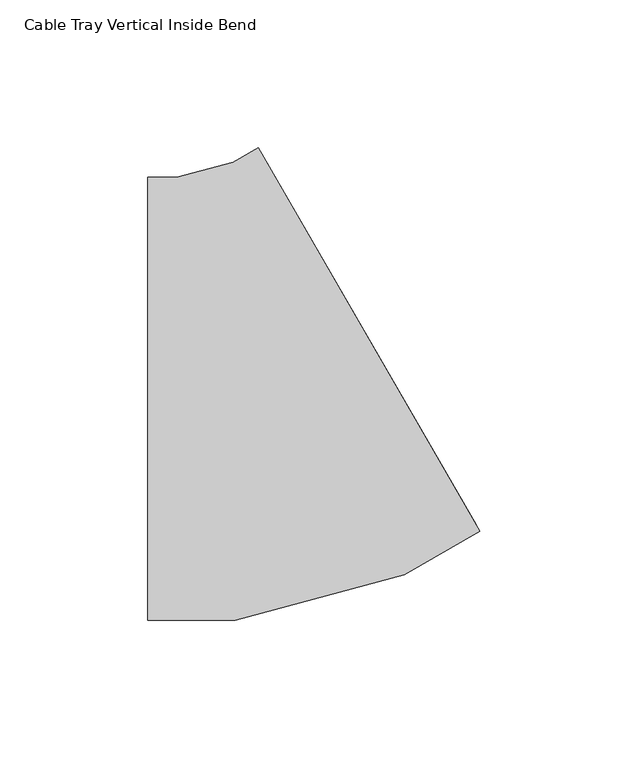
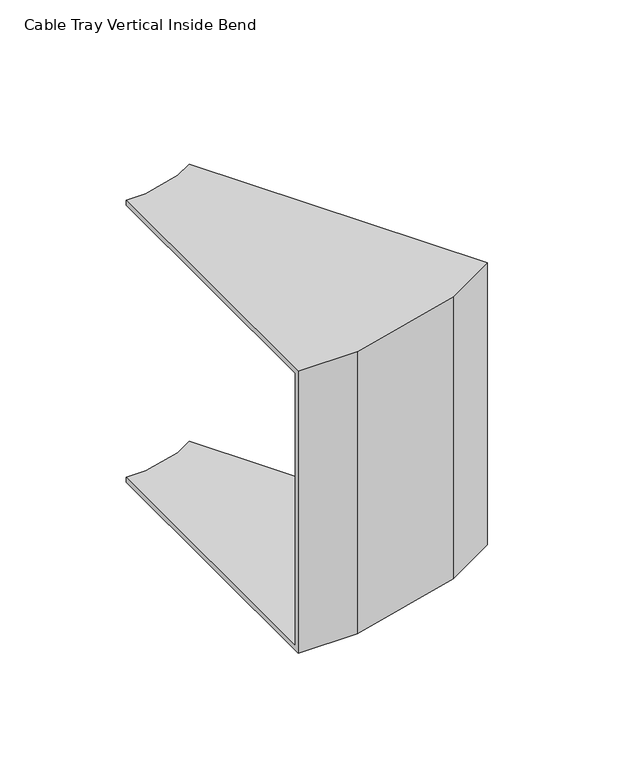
"""IFC4 building model written with IfcOpenShell, lengths in millimetres: cable carrier fitting geometry, Cable Tray Vertical Inside Bend : ELEC_ELV_TKG_N2402."""

from ifc_helpers import new_model, si_unit, origin, place, context, project, spatial, faceted_brep, source, transform, mapped, element, save


def cable_tray_vertical_inside_bend_52d12825(model_context):
    return source(origin(), model_context, "Body", "Brep", [
        faceted_brep([(-40.1920506, 75.0, 75.0), (-40.1920506, 75.0, 72.46), (-40.1920506, -72.46, 72.46), (-40.1920506, -72.46, -72.46), (-40.1920506, 75.0, -72.46), (-40.1920506, 75.0, -75.0), (-40.1920506, -75.0, -75.0), (-40.1920506, -75.0, 75.0), (-2.6923158, 85.0479416, 75.0), (72.3071537, -44.8561752, 75.0), (72.3071537, -44.8561752, -75.0), (-2.6923158, 85.0479416, -75.0), (-2.6923158, 85.0479416, -72.46), (71.0371627, -42.6564655, -72.46), (71.0371627, -42.6564655, 72.46), (-2.6923158, 85.0479416, 72.46), (-30.3181912, 75.0, 75.0), (-30.3181912, 75.0, 72.46), (-11.2433491, 80.1110468, 72.46), (45.6736579, -57.2999538, 72.46), (-10.904867, -72.46, 72.46), (-10.904867, -72.46, -72.46), (45.6736579, -57.2999538, -72.46), (-11.2433491, 80.1110468, -72.46), (-30.3181912, 75.0, -72.46), (-30.3181912, 75.0, -75.0), (-11.2433491, 80.1110468, -75.0), (46.6540539, -59.6668596, -75.0), (-10.5704723, -75.0, -75.0), (-10.5704723, -75.0, 75.0), (46.6540539, -59.6668596, 75.0), (-11.2433491, 80.1110468, 75.0)], [[[0, 1, 2, 3, 4, 5, 6, 7]], [[8, 9, 10, 11, 12, 13, 14, 15]], [[1, 0, 16, 17]], [[2, 1, 17, 18, 15, 14, 19, 20]], [[3, 2, 20, 21]], [[4, 3, 21, 22, 13, 12, 23, 24]], [[5, 4, 24, 25]], [[6, 5, 25, 26, 11, 10, 27, 28]], [[7, 6, 28, 29]], [[0, 7, 29, 30, 9, 8, 31, 16]], [[17, 16, 31, 18]], [[21, 20, 19, 22]], [[25, 24, 23, 26]], [[29, 28, 27, 30]], [[18, 31, 8, 15]], [[22, 19, 14, 13]], [[26, 23, 12, 11]], [[30, 27, 10, 9]]]),
    ])


if __name__ == "__main__":
    model = new_model("IFC4")
    model_context = context("Model", 3, world=origin())
    ifc_project = project(units=[si_unit("LENGTHUNIT", "METRE", prefix="MILLI")], contexts=[model_context])
    site = spatial("IfcSite", under=ifc_project)
    building = spatial("IfcBuilding", under=site)
    placement = place(None, origin())
    cable_tray_vertical_inside_bend_shape = cable_tray_vertical_inside_bend_52d12825(model_context)
    element("IfcCableCarrierFitting", 1, ObjectType="Cable Tray Vertical Inside Bend : ELEC_ELV_TKG_N2402", at=placement, inside=building, context=model_context, shape_type="MappedRepresentation", body=[
        mapped(cable_tray_vertical_inside_bend_shape, transform((0.0, 0.0, 0.0), x_axis=(1.0, 0.0, 0.0), y_axis=(0.0, 1.0, 0.0), z_axis=(0.0, 0.0, 1.0))),
    ])
    save(model, "model.ifc")
